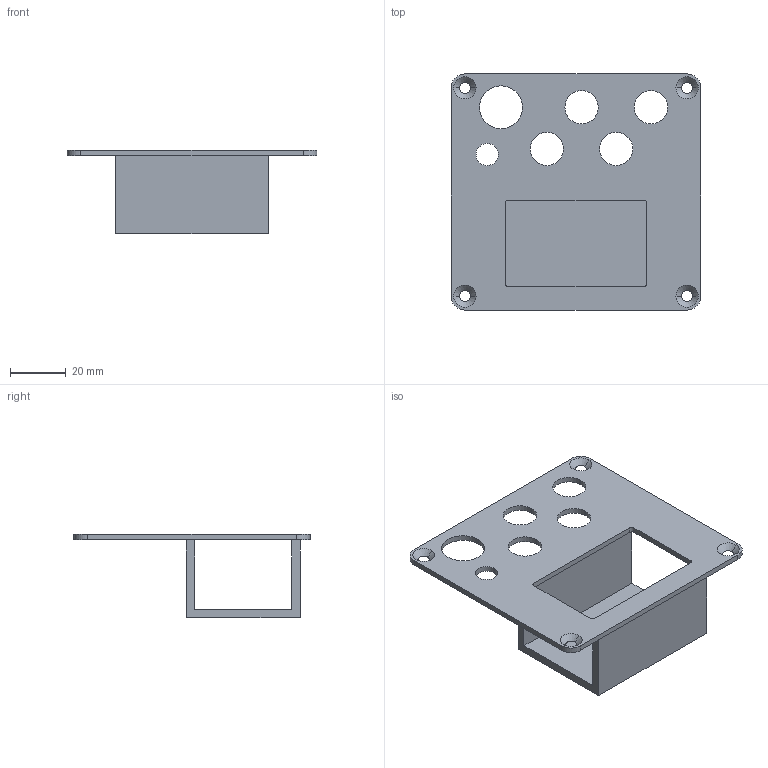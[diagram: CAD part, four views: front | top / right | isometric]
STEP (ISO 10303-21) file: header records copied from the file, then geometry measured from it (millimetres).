
FILE_DESCRIPTION (( 'STEP AP214' ), '1' );
FILE_NAME ('Çàäíÿÿ êðûøêà.STEP', '2021-11-10T11:30:10', ( 'j03075@gmail.com' ), ( '' ), 'SwSTEP 2.0', 'SolidWorks 2021', '' );
FILE_SCHEMA (( 'AUTOMOTIVE_DESIGN' ));
Length unit declared in the file: millimetre
Products named in the file (1): Çàäíÿÿ êðûøêà
Bounding box: 90 x 85 x 30 mm (x, y, z)
Volume: 25494.5 mm3; surface area: 22358.7 mm2
Topology: 1 solids, 1 shells, 46 faces, 132 edges, 88 vertices
Faces by surface type: cylinder 20, plane 18, cone 8
Entity records: 1614 total; most frequent: DIRECTION 282, CARTESIAN_POINT 267, ORIENTED_EDGE 264, EDGE_CURVE 132, AXIS2_PLACEMENT_3D 103, VERTEX_POINT 88, LINE 76, VECTOR 76
